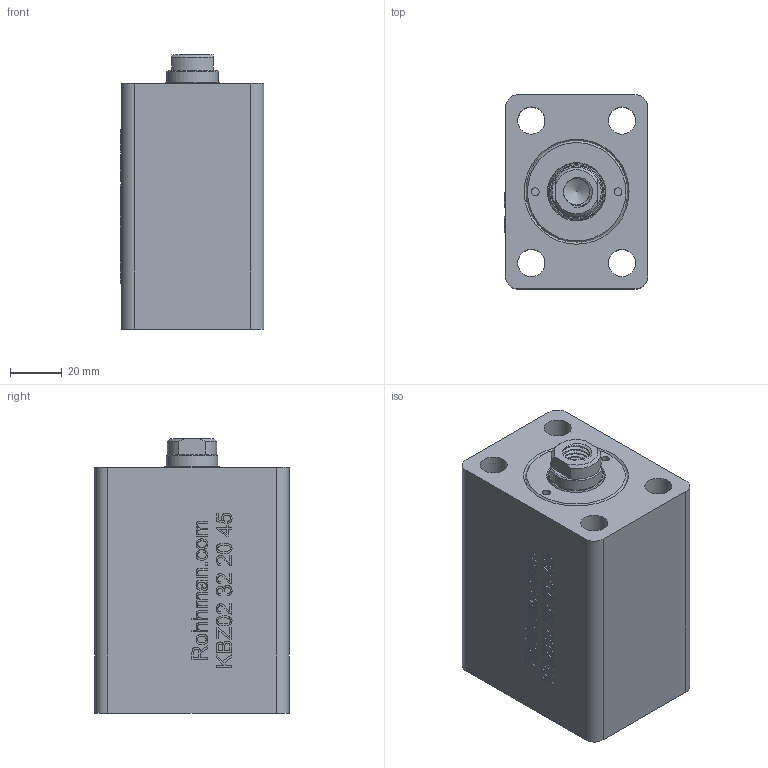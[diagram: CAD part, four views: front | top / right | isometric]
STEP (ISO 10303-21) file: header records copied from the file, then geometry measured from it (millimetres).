
FILE_DESCRIPTION(/* description */ (''),/* implementation_level */ '2;1');
FILE_NAME(/* name */ 'C:/Users/TEKNO/YandexDisk/Traceparts/SelfPublishingProductsCatalogBasicTemplate_KINETICTR.xlsm/KBZ_02_32_20_45.step',/* time_stamp */ '2022-10-02T11:12:59+03:00',/* author */ (''),/* organization */ (''),/* preprocessor_version */ 'ST-DEVELOPER v19',/* originating_system */ 'Autodesk Translation Framework v11.7.0.108',/* authorisation */ '');
FILE_SCHEMA (('AUTOMOTIVE_DESIGN { 1 0 10303 214 3 1 1 }'));
Products named in the file (10): KBZ_02_32_20_40_WEB; KBZ_02_32-20_ON_KAPAK; 20_23_8; Component1; K06-20X25X4_3X6; K22-20X26X3_5; KBZ_02_32_40_GOVDE; Component1_1; 20_K_MIL_40_WEB; Component1_2
Assembly tree (9 placements, depth 4):
  KBZ_02_32_20_40_WEB
    KBZ_02_32-20_ON_KAPAK
      20_23_8
        Component1
      K06-20X25X4_3X6
      K22-20X26X3_5
    KBZ_02_32_40_GOVDE
      Component1_1
    20_K_MIL_40_WEB
      Component1_2
Bounding box: 55.5 x 75 x 106 mm (x, y, z)
Volume: 300566.5 mm3; surface area: 72439.9 mm2
Topology: 6 solids, 6 shells, 749 faces, 2017 edges, 1332 vertices
Faces by surface type: bspline 343, plane 221, cylinder 133, cone 43, torus 9
Full cylindrical faces by diameter (mm): 3 x4, 9.836 x5, 10.274 x7, 10.5 x4, 11.834 x6, 12.226 x8, 13.157 x14, 16 x1, 16.5 x4, 20 x2, 20.4 x1, 20.5 x2, 21.2 x1, 22 x1, 23 x2, 25 x2, 26 x2, 30.4 x1, 32 x1, 35 x2, 35.5 x1, 38.132 x8, 38.526 x8, 39.85 x8, 40.208 x9
Entity records: 43706 total; most frequent: CARTESIAN_POINT 27228, ORIENTED_EDGE 4028, DIRECTION 2175, EDGE_CURVE 2014, VERTEX_POINT 1331, LINE 915, VECTOR 915, B_SPLINE_CURVE_WITH_KNOTS 890
